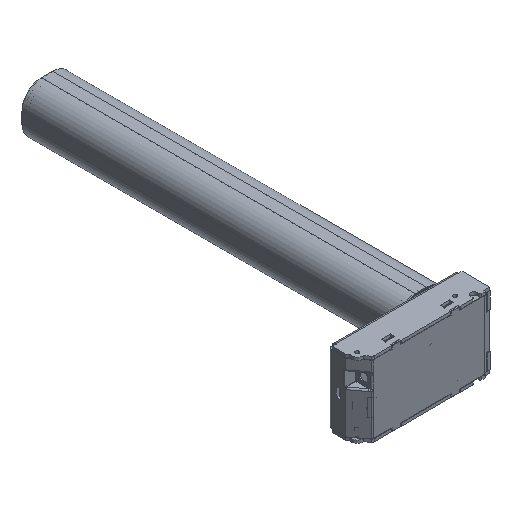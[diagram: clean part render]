
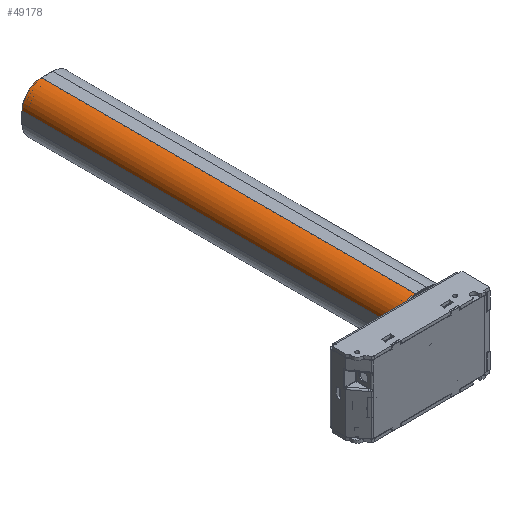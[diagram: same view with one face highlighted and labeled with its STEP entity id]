
A CAD part, isometric view. The second image highlights one B-rep face of the part: STEP entity #49178.
In plain terms, the highlighted cylindrical face has radius 27 mm (diameter 54 mm), a partial arc.
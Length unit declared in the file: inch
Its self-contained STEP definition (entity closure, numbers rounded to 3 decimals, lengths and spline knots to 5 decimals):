
#341 = EDGE_CURVE ( 'NONE', #36972, #31411, #38844, .T. ) ;
#407 = LINE ( 'NONE', #14440, #25211 ) ;
#1525 = CARTESIAN_POINT ( 'NONE',  ( -0.31496, 23.22835, 0.31496 ) ) ;
#1633 = CARTESIAN_POINT ( 'NONE',  ( -1.37795, 23.22835, 0.31496 ) ) ;
#2945 = DIRECTION ( 'NONE',  ( 0., 1., 0. ) ) ;
#5315 = ORIENTED_EDGE ( 'NONE', *, *, #15358, .F. ) ;
#5711 = DIRECTION ( 'NONE',  ( 0., -1., 0. ) ) ;
#6204 = DIRECTION ( 'NONE',  ( -1., 0., 0. ) ) ;
#7023 = ORIENTED_EDGE ( 'NONE', *, *, #35402, .T. ) ;
#9914 = DIRECTION ( 'NONE',  ( -1., 0., 0. ) ) ;
#12845 = ORIENTED_EDGE ( 'NONE', *, *, #15670, .T. ) ;
#13153 = CIRCLE ( 'NONE', #17698, 1.06299 ) ;
#13611 = VERTEX_POINT ( 'NONE', #22599 ) ;
#14003 = FACE_OUTER_BOUND ( 'NONE', #21507, .T. ) ;
#14440 = CARTESIAN_POINT ( 'NONE',  ( -0.31496, 2.51969, 1.37795 ) ) ;
#15358 = EDGE_CURVE ( 'NONE', #13611, #36972, #32795, .T. ) ;
#15670 = EDGE_CURVE ( 'NONE', #21544, #31411, #13153, .T. ) ;
#17698 = AXIS2_PLACEMENT_3D ( 'NONE', #1525, #5711, #9914 ) ;
#21455 = ORIENTED_EDGE ( 'NONE', *, *, #341, .F. ) ;
#21507 = EDGE_LOOP ( 'NONE', ( #12845, #21455, #5315, #7023 ) ) ;
#21544 = VERTEX_POINT ( 'NONE', #49668 ) ;
#22225 = CARTESIAN_POINT ( 'NONE',  ( -0.31496, 2.51969, 0.31496 ) ) ;
#22599 = CARTESIAN_POINT ( 'NONE',  ( -0.31496, 2.51969, 1.37795 ) ) ;
#25074 = AXIS2_PLACEMENT_3D ( 'NONE', #22225, #52009, #6204 ) ;
#25211 = VECTOR ( 'NONE', #35414, 39.37008 ) ;
#31411 = VERTEX_POINT ( 'NONE', #1633 ) ;
#32795 = CIRCLE ( 'NONE', #25074, 1.06299 ) ;
#35402 = EDGE_CURVE ( 'NONE', #13611, #21544, #407, .T. ) ;
#35414 = DIRECTION ( 'NONE',  ( 0., 1., 0. ) ) ;
#35948 = CARTESIAN_POINT ( 'NONE',  ( -1.37795, 2.51969, 0.31496 ) ) ;
#36940 = DIRECTION ( 'NONE',  ( 1., 0., 0. ) ) ;
#36972 = VERTEX_POINT ( 'NONE', #52547 ) ;
#38844 = LINE ( 'NONE', #35948, #42724 ) ;
#42724 = VECTOR ( 'NONE', #2945, 39.37008 ) ;
#44743 = DIRECTION ( 'NONE',  ( 0., 1., 0. ) ) ;
#45300 = CYLINDRICAL_SURFACE ( 'NONE', #47037, 1.06299 ) ;
#47037 = AXIS2_PLACEMENT_3D ( 'NONE', #49242, #44743, #36940 ) ;
#49178 = ADVANCED_FACE ( 'NONE', ( #14003 ), #45300, .T. ) ;
#49242 = CARTESIAN_POINT ( 'NONE',  ( -0.31496, 2.51969, 0.31496 ) ) ;
#49668 = CARTESIAN_POINT ( 'NONE',  ( -0.31496, 23.22835, 1.37795 ) ) ;
#52009 = DIRECTION ( 'NONE',  ( 0., -1., 0. ) ) ;
#52547 = CARTESIAN_POINT ( 'NONE',  ( -1.37795, 2.51969, 0.31496 ) ) ;
